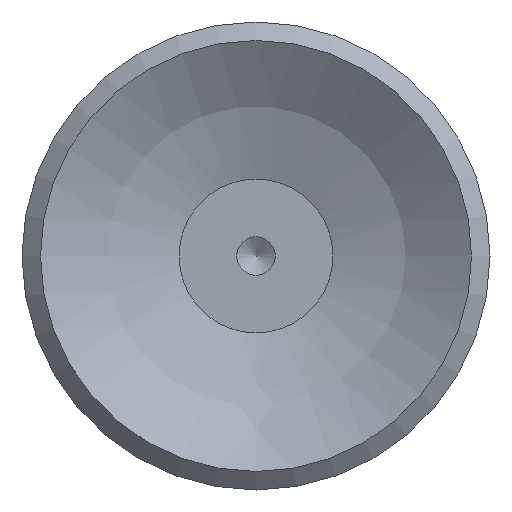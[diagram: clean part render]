
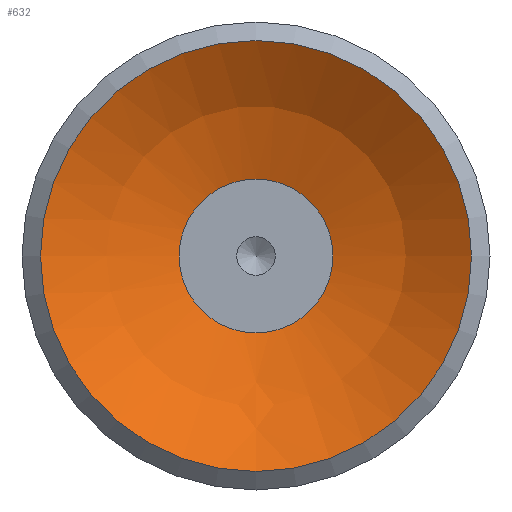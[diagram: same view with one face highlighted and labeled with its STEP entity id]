
A CAD part, front view. The second image highlights one B-rep face of the part: STEP entity #632.
In plain terms, the highlighted spherical face has radius 11.5 mm.
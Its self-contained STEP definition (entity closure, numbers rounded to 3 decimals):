
#632=ADVANCED_FACE('',(#1074,#1075),#1076,.F.);
#1074=FACE_OUTER_BOUND('',#1567,.T.);
#1075=FACE_OUTER_BOUND('',#1568,.T.);
#1076=SPHERICAL_SURFACE('',#1569,11.5);
#1567=EDGE_LOOP('',(#2862));
#1568=EDGE_LOOP('',(#2863));
#1569=AXIS2_PLACEMENT_3D('',#2864,#2865,#2866);
#2862=ORIENTED_EDGE('',*,*,#3426,.T.);
#2863=ORIENTED_EDGE('',*,*,#3470,.F.);
#2864=CARTESIAN_POINT('',(0.001,9.494,-22.735));
#2865=DIRECTION('',(0.0,0.,-1.0));
#2866=DIRECTION('',(1.0,0.0,0.0));
#3426=EDGE_CURVE('',#4081,#4081,#4082,.T.);
#3470=EDGE_CURVE('',#4154,#4154,#4155,.T.);
#4081=VERTEX_POINT('',#5846);
#4082=CIRCLE('',#5847,7.0);
#4154=VERTEX_POINT('',#5919);
#4155=CIRCLE('',#5920,2.5);
#5846=CARTESIAN_POINT('',(0.001,16.494,-13.611));
#5847=AXIS2_PLACEMENT_3D('',#6478,#6479,#6480);
#5919=CARTESIAN_POINT('',(0.001,11.994,-11.51));
#5920=AXIS2_PLACEMENT_3D('',#6610,#6611,#6612);
#6478=CARTESIAN_POINT('',(0.001,9.494,-13.611));
#6479=DIRECTION('',(0.0,0.,-1.0));
#6480=DIRECTION('',(0.0,1.0,0.));
#6610=CARTESIAN_POINT('',(0.001,9.494,-11.51));
#6611=DIRECTION('',(0.0,0.,-1.0));
#6612=DIRECTION('',(0.0,1.0,0.));
